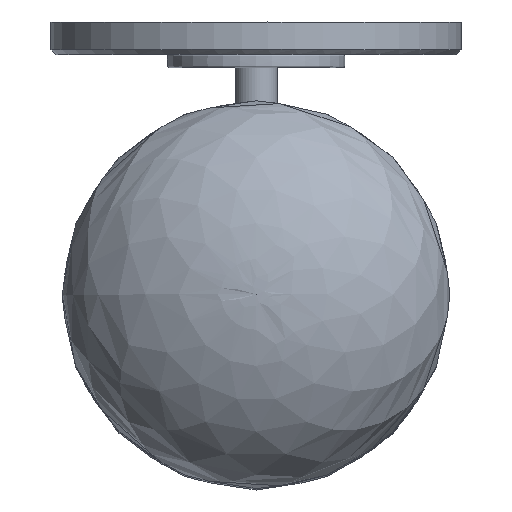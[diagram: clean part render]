
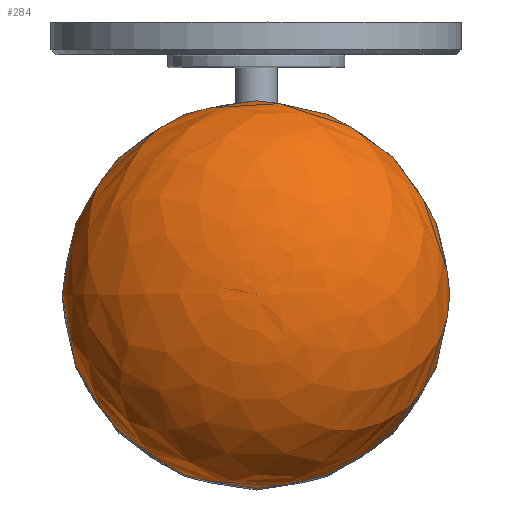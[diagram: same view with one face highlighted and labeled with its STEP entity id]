
A CAD part, top view. The second image highlights one B-rep face of the part: STEP entity #284.
In plain terms, the highlighted free-form (B-spline) face has degree [2, 3] with [9, 7] control points.
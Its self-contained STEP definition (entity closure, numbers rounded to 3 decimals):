
#284=ADVANCED_FACE('',(#469),#2424,.T.);
#469=FACE_OUTER_BOUND('',#669,.T.);
#669=EDGE_LOOP('',(#1114,#1115,#1116));
#1114=ORIENTED_EDGE('',*,*,#1680,.F.);
#1115=ORIENTED_EDGE('',*,*,#1680,.T.);
#1116=ORIENTED_EDGE('',*,*,#1683,.F.);
#1680=EDGE_CURVE('',#2254,#2257,#1992,.T.);
#1683=EDGE_CURVE('',#2257,#2257,#1995,.T.);
#1992=(
BOUNDED_CURVE()
B_SPLINE_CURVE(3,(#5119,#5120,#5121,#5122,#5123,#5124,#5125),
 .UNSPECIFIED.,.F.,.F.)
B_SPLINE_CURVE_WITH_KNOTS((4,3,4),(7.854,9.425,10.533),
 .UNSPECIFIED.)
CURVE()
GEOMETRIC_REPRESENTATION_ITEM()
RATIONAL_B_SPLINE_CURVE((1.,0.805,0.805,1.,0.9,
0.896,1.))
REPRESENTATION_ITEM('')
);
#1995=(
BOUNDED_CURVE()
B_SPLINE_CURVE(2,(#5236,#5237,#5238,#5239,#5240,#5241,#5242,#5243,#5244),
 .UNSPECIFIED.,.T.,.F.)
B_SPLINE_CURVE_WITH_KNOTS((3,2,2,2,3),(0.,87.945,175.891,
263.836,351.781),.UNSPECIFIED.)
CURVE()
GEOMETRIC_REPRESENTATION_ITEM()
RATIONAL_B_SPLINE_CURVE((1.,0.707,1.,0.707,1.,0.707,
1.,0.707,1.))
REPRESENTATION_ITEM('')
);
#2254=VERTEX_POINT('',#5115);
#2257=VERTEX_POINT('',#5118);
#2424=(
BOUNDED_SURFACE()
B_SPLINE_SURFACE(2,3,((#5016,#5017,#5018,#5019,#5020,#5021,#5022),(#5023,
#5024,#5025,#5026,#5027,#5028,#5029),(#5030,#5031,#5032,#5033,#5034,#5035,
#5036),(#5037,#5038,#5039,#5040,#5041,#5042,#5043),(#5044,#5045,#5046,#5047,
#5048,#5049,#5050),(#5051,#5052,#5053,#5054,#5055,#5056,#5057),(#5058,#5059,
#5060,#5061,#5062,#5063,#5064),(#5065,#5066,#5067,#5068,#5069,#5070,#5071),
(#5072,#5073,#5074,#5075,#5076,#5077,#5078)),.UNSPECIFIED.,.T.,.F.,.F.)
B_SPLINE_SURFACE_WITH_KNOTS((3,2,2,2,3),(4,3,4),(0.,87.945,175.891,
263.836,351.781),(7.854,9.425,10.533),
 .UNSPECIFIED.)
GEOMETRIC_REPRESENTATION_ITEM()
RATIONAL_B_SPLINE_SURFACE(((1.,0.805,0.805,1.,0.862,
0.822,0.878),(0.707,0.569,
0.569,0.707,0.61,0.581,
0.621),(1.,0.805,0.805,1.,0.862,
0.822,0.878),(0.707,0.569,
0.569,0.707,0.61,0.581,
0.621),(1.,0.805,0.805,1.,0.862,
0.822,0.878),(0.707,0.569,
0.569,0.707,0.61,0.581,
0.621),(1.,0.805,0.805,1.,0.862,
0.822,0.878),(0.707,0.569,
0.569,0.707,0.61,0.581,
0.621),(1.,0.805,0.805,1.,0.862,
0.822,0.878)))
REPRESENTATION_ITEM('')
SURFACE()
);
#5016=CARTESIAN_POINT('',(0.,-84.5,170.));
#5017=CARTESIAN_POINT('',(-35.147,-84.5,170.));
#5018=CARTESIAN_POINT('',(-60.,-84.5,152.353));
#5019=CARTESIAN_POINT('',(-60.,-84.5,127.396));
#5020=CARTESIAN_POINT('',(-60.,-84.5,110.964));
#5021=CARTESIAN_POINT('',(-47.886,-84.5,96.472));
#5022=CARTESIAN_POINT('',(-26.,-84.5,89.));
#5023=CARTESIAN_POINT('',(0.,-84.5,170.));
#5024=CARTESIAN_POINT('',(-35.147,-49.353,170.));
#5025=CARTESIAN_POINT('',(-60.,-24.5,152.353));
#5026=CARTESIAN_POINT('',(-60.,-24.5,127.396));
#5027=CARTESIAN_POINT('',(-60.,-24.5,110.964));
#5028=CARTESIAN_POINT('',(-47.886,-36.614,96.472));
#5029=CARTESIAN_POINT('',(-26.,-58.5,89.));
#5030=CARTESIAN_POINT('',(0.,-84.5,170.));
#5031=CARTESIAN_POINT('',(0.,-49.353,170.));
#5032=CARTESIAN_POINT('',(0.,-24.5,152.353));
#5033=CARTESIAN_POINT('',(0.,-24.5,127.396));
#5034=CARTESIAN_POINT('',(0.,-24.5,110.964));
#5035=CARTESIAN_POINT('',(0.,-36.614,96.472));
#5036=CARTESIAN_POINT('',(0.,-58.5,89.));
#5037=CARTESIAN_POINT('',(0.,-84.5,170.));
#5038=CARTESIAN_POINT('',(35.147,-49.353,170.));
#5039=CARTESIAN_POINT('',(60.,-24.5,152.353));
#5040=CARTESIAN_POINT('',(60.,-24.5,127.396));
#5041=CARTESIAN_POINT('',(60.,-24.5,110.964));
#5042=CARTESIAN_POINT('',(47.886,-36.614,96.472));
#5043=CARTESIAN_POINT('',(26.,-58.5,89.));
#5044=CARTESIAN_POINT('',(0.,-84.5,170.));
#5045=CARTESIAN_POINT('',(35.147,-84.5,170.));
#5046=CARTESIAN_POINT('',(60.,-84.5,152.353));
#5047=CARTESIAN_POINT('',(60.,-84.5,127.396));
#5048=CARTESIAN_POINT('',(60.,-84.5,110.964));
#5049=CARTESIAN_POINT('',(47.886,-84.5,96.472));
#5050=CARTESIAN_POINT('',(26.,-84.5,89.));
#5051=CARTESIAN_POINT('',(0.,-84.5,170.));
#5052=CARTESIAN_POINT('',(35.147,-119.647,170.));
#5053=CARTESIAN_POINT('',(60.,-144.5,152.353));
#5054=CARTESIAN_POINT('',(60.,-144.5,127.396));
#5055=CARTESIAN_POINT('',(60.,-144.5,110.964));
#5056=CARTESIAN_POINT('',(47.886,-132.386,96.472));
#5057=CARTESIAN_POINT('',(26.,-110.5,89.));
#5058=CARTESIAN_POINT('',(0.,-84.5,170.));
#5059=CARTESIAN_POINT('',(0.,-119.647,170.));
#5060=CARTESIAN_POINT('',(0.,-144.5,152.353));
#5061=CARTESIAN_POINT('',(0.,-144.5,127.396));
#5062=CARTESIAN_POINT('',(0.,-144.5,110.964));
#5063=CARTESIAN_POINT('',(0.,-132.386,96.472));
#5064=CARTESIAN_POINT('',(0.,-110.5,89.));
#5065=CARTESIAN_POINT('',(0.,-84.5,170.));
#5066=CARTESIAN_POINT('',(-35.147,-119.647,170.));
#5067=CARTESIAN_POINT('',(-60.,-144.5,152.353));
#5068=CARTESIAN_POINT('',(-60.,-144.5,127.396));
#5069=CARTESIAN_POINT('',(-60.,-144.5,110.964));
#5070=CARTESIAN_POINT('',(-47.886,-132.386,96.472));
#5071=CARTESIAN_POINT('',(-26.,-110.5,89.));
#5072=CARTESIAN_POINT('',(0.,-84.5,170.));
#5073=CARTESIAN_POINT('',(-35.147,-84.5,170.));
#5074=CARTESIAN_POINT('',(-60.,-84.5,152.353));
#5075=CARTESIAN_POINT('',(-60.,-84.5,127.396));
#5076=CARTESIAN_POINT('',(-60.,-84.5,110.964));
#5077=CARTESIAN_POINT('',(-47.886,-84.5,96.472));
#5078=CARTESIAN_POINT('',(-26.,-84.5,89.));
#5115=CARTESIAN_POINT('',(0.,-84.5,170.));
#5118=CARTESIAN_POINT('',(-26.,-84.5,89.));
#5119=CARTESIAN_POINT('',(0.,-84.5,170.));
#5120=CARTESIAN_POINT('',(-35.147,-84.5,170.));
#5121=CARTESIAN_POINT('',(-60.,-84.5,152.353));
#5122=CARTESIAN_POINT('',(-60.,-84.5,127.396));
#5123=CARTESIAN_POINT('',(-60.,-84.5,110.964));
#5124=CARTESIAN_POINT('',(-47.886,-84.5,96.472));
#5125=CARTESIAN_POINT('',(-26.,-84.5,89.));
#5236=CARTESIAN_POINT('',(-26.,-84.5,89.));
#5237=CARTESIAN_POINT('',(-26.,-58.5,89.));
#5238=CARTESIAN_POINT('',(0.,-58.5,89.));
#5239=CARTESIAN_POINT('',(26.,-58.5,89.));
#5240=CARTESIAN_POINT('',(26.,-84.5,89.));
#5241=CARTESIAN_POINT('',(26.,-110.5,89.));
#5242=CARTESIAN_POINT('',(0.,-110.5,89.));
#5243=CARTESIAN_POINT('',(-26.,-110.5,89.));
#5244=CARTESIAN_POINT('',(-26.,-84.5,89.));
